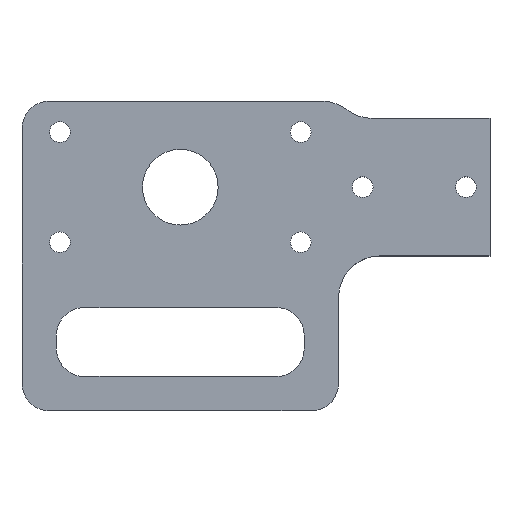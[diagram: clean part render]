
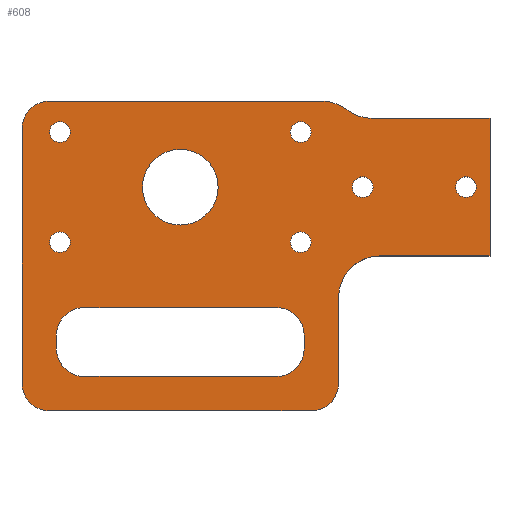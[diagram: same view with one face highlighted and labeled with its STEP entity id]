
A CAD part, top view. The second image highlights one B-rep face of the part: STEP entity #608.
In plain terms, the highlighted planar face has unit normal (0, 0, 1).
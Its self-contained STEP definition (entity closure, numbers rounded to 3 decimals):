
#23=FACE_BOUND('',#112,.T.);
#24=FACE_BOUND('',#113,.T.);
#25=FACE_BOUND('',#114,.T.);
#26=FACE_BOUND('',#115,.T.);
#27=FACE_BOUND('',#116,.T.);
#28=FACE_BOUND('',#117,.T.);
#29=FACE_BOUND('',#118,.T.);
#30=FACE_BOUND('',#119,.T.);
#43=PLANE('',#686);
#73=FACE_OUTER_BOUND('',#111,.T.);
#111=EDGE_LOOP('',(#534,#535,#536,#537,#538,#539,#540,#541,#542,#543,#544,
#545,#546));
#112=EDGE_LOOP('',(#547));
#113=EDGE_LOOP('',(#548,#549,#550,#551,#552,#553,#554,#555));
#114=EDGE_LOOP('',(#556));
#115=EDGE_LOOP('',(#557));
#116=EDGE_LOOP('',(#558));
#117=EDGE_LOOP('',(#559));
#118=EDGE_LOOP('',(#560));
#119=EDGE_LOOP('',(#561));
#124=LINE('',#882,#174);
#138=LINE('',#944,#188);
#141=LINE('',#952,#191);
#144=LINE('',#960,#194);
#146=LINE('',#966,#196);
#149=LINE('',#975,#199);
#157=LINE('',#998,#207);
#165=LINE('',#1028,#215);
#166=LINE('',#1031,#216);
#168=LINE('',#1034,#218);
#169=LINE('',#1036,#219);
#174=VECTOR('',#701,10.);
#188=VECTOR('',#755,10.);
#191=VECTOR('',#764,10.);
#194=VECTOR('',#773,10.);
#196=VECTOR('',#781,10.);
#199=VECTOR('',#790,10.);
#207=VECTOR('',#816,10.);
#215=VECTOR('',#854,10.);
#216=VECTOR('',#857,10.);
#218=VECTOR('',#861,10.);
#219=VECTOR('',#864,10.);
#220=CIRCLE('',#624,6.);
#238=CIRCLE('',#645,4.);
#239=CIRCLE('',#648,4.);
#240=CIRCLE('',#651,4.);
#241=CIRCLE('',#654,4.);
#242=CIRCLE('',#657,4.);
#243=CIRCLE('',#660,4.);
#244=CIRCLE('',#662,4.);
#245=CIRCLE('',#664,6.);
#246=CIRCLE('',#666,6.);
#247=CIRCLE('',#669,1.5);
#248=CIRCLE('',#671,1.5);
#249=CIRCLE('',#673,1.5);
#250=CIRCLE('',#675,1.5);
#251=CIRCLE('',#677,1.5);
#252=CIRCLE('',#679,5.5);
#253=CIRCLE('',#681,1.5);
#254=VERTEX_POINT('',#869);
#255=VERTEX_POINT('',#870);
#259=VERTEX_POINT('',#880);
#285=VERTEX_POINT('',#936);
#286=VERTEX_POINT('',#938);
#287=VERTEX_POINT('',#942);
#288=VERTEX_POINT('',#946);
#289=VERTEX_POINT('',#950);
#290=VERTEX_POINT('',#954);
#291=VERTEX_POINT('',#958);
#292=VERTEX_POINT('',#962);
#293=VERTEX_POINT('',#968);
#294=VERTEX_POINT('',#969);
#295=VERTEX_POINT('',#974);
#296=VERTEX_POINT('',#978);
#297=VERTEX_POINT('',#982);
#298=VERTEX_POINT('',#986);
#299=VERTEX_POINT('',#990);
#300=VERTEX_POINT('',#992);
#301=VERTEX_POINT('',#996);
#302=VERTEX_POINT('',#1000);
#303=VERTEX_POINT('',#1004);
#304=VERTEX_POINT('',#1008);
#305=VERTEX_POINT('',#1012);
#306=VERTEX_POINT('',#1016);
#307=VERTEX_POINT('',#1020);
#308=VERTEX_POINT('',#1024);
#309=VERTEX_POINT('',#1030);
#310=EDGE_CURVE('',#254,#255,#220,.T.);
#316=EDGE_CURVE('',#254,#259,#124,.T.);
#344=EDGE_CURVE('',#285,#286,#238,.T.);
#347=EDGE_CURVE('',#285,#287,#138,.T.);
#349=EDGE_CURVE('',#288,#287,#239,.T.);
#351=EDGE_CURVE('',#288,#289,#141,.T.);
#353=EDGE_CURVE('',#290,#289,#240,.T.);
#355=EDGE_CURVE('',#290,#291,#144,.T.);
#357=EDGE_CURVE('',#292,#291,#241,.T.);
#358=EDGE_CURVE('',#292,#286,#146,.T.);
#359=EDGE_CURVE('',#293,#294,#242,.T.);
#362=EDGE_CURVE('',#295,#294,#149,.T.);
#364=EDGE_CURVE('',#295,#296,#243,.T.);
#366=EDGE_CURVE('',#297,#259,#244,.T.);
#368=EDGE_CURVE('',#255,#298,#245,.T.);
#371=EDGE_CURVE('',#299,#300,#246,.T.);
#374=EDGE_CURVE('',#299,#301,#157,.T.);
#375=EDGE_CURVE('',#302,#302,#247,.T.);
#377=EDGE_CURVE('',#303,#303,#248,.T.);
#379=EDGE_CURVE('',#304,#304,#249,.T.);
#381=EDGE_CURVE('',#305,#305,#250,.T.);
#383=EDGE_CURVE('',#306,#306,#251,.T.);
#385=EDGE_CURVE('',#307,#307,#252,.T.);
#387=EDGE_CURVE('',#308,#308,#253,.T.);
#389=EDGE_CURVE('',#297,#296,#165,.T.);
#390=EDGE_CURVE('',#309,#298,#166,.T.);
#392=EDGE_CURVE('',#301,#309,#168,.T.);
#393=EDGE_CURVE('',#293,#300,#169,.T.);
#534=ORIENTED_EDGE('',*,*,#310,.F.);
#535=ORIENTED_EDGE('',*,*,#316,.T.);
#536=ORIENTED_EDGE('',*,*,#366,.F.);
#537=ORIENTED_EDGE('',*,*,#389,.T.);
#538=ORIENTED_EDGE('',*,*,#364,.F.);
#539=ORIENTED_EDGE('',*,*,#362,.T.);
#540=ORIENTED_EDGE('',*,*,#359,.F.);
#541=ORIENTED_EDGE('',*,*,#393,.T.);
#542=ORIENTED_EDGE('',*,*,#371,.F.);
#543=ORIENTED_EDGE('',*,*,#374,.T.);
#544=ORIENTED_EDGE('',*,*,#392,.T.);
#545=ORIENTED_EDGE('',*,*,#390,.T.);
#546=ORIENTED_EDGE('',*,*,#368,.F.);
#547=ORIENTED_EDGE('',*,*,#387,.T.);
#548=ORIENTED_EDGE('',*,*,#351,.T.);
#549=ORIENTED_EDGE('',*,*,#353,.F.);
#550=ORIENTED_EDGE('',*,*,#355,.T.);
#551=ORIENTED_EDGE('',*,*,#357,.F.);
#552=ORIENTED_EDGE('',*,*,#358,.T.);
#553=ORIENTED_EDGE('',*,*,#344,.F.);
#554=ORIENTED_EDGE('',*,*,#347,.T.);
#555=ORIENTED_EDGE('',*,*,#349,.F.);
#556=ORIENTED_EDGE('',*,*,#385,.T.);
#557=ORIENTED_EDGE('',*,*,#383,.T.);
#558=ORIENTED_EDGE('',*,*,#381,.T.);
#559=ORIENTED_EDGE('',*,*,#379,.T.);
#560=ORIENTED_EDGE('',*,*,#377,.T.);
#561=ORIENTED_EDGE('',*,*,#375,.T.);
#608=ADVANCED_FACE('',(#73,#23,#24,#25,#26,#27,#28,#29,#30),#43,.T.);
#624=AXIS2_PLACEMENT_3D('',#871,#691,#692);
#645=AXIS2_PLACEMENT_3D('',#939,#749,#750);
#648=AXIS2_PLACEMENT_3D('',#948,#759,#760);
#651=AXIS2_PLACEMENT_3D('',#956,#768,#769);
#654=AXIS2_PLACEMENT_3D('',#964,#777,#778);
#657=AXIS2_PLACEMENT_3D('',#970,#784,#785);
#660=AXIS2_PLACEMENT_3D('',#979,#794,#795);
#662=AXIS2_PLACEMENT_3D('',#983,#799,#800);
#664=AXIS2_PLACEMENT_3D('',#987,#804,#805);
#666=AXIS2_PLACEMENT_3D('',#993,#810,#811);
#669=AXIS2_PLACEMENT_3D('',#1001,#819,#820);
#671=AXIS2_PLACEMENT_3D('',#1005,#824,#825);
#673=AXIS2_PLACEMENT_3D('',#1009,#829,#830);
#675=AXIS2_PLACEMENT_3D('',#1013,#834,#835);
#677=AXIS2_PLACEMENT_3D('',#1017,#839,#840);
#679=AXIS2_PLACEMENT_3D('',#1021,#844,#845);
#681=AXIS2_PLACEMENT_3D('',#1025,#849,#850);
#686=AXIS2_PLACEMENT_3D('',#1037,#865,#866);
#691=DIRECTION('center_axis',(0.,0.,-1.));
#692=DIRECTION('ref_axis',(0.323,0.946,0.));
#701=DIRECTION('',(-1.,0.,0.));
#749=DIRECTION('center_axis',(0.,0.,1.));
#750=DIRECTION('ref_axis',(-0.707,0.707,0.));
#755=DIRECTION('',(1.,0.,0.));
#759=DIRECTION('center_axis',(0.,0.,1.));
#760=DIRECTION('ref_axis',(0.707,0.707,0.));
#764=DIRECTION('',(0.,-1.,0.));
#768=DIRECTION('center_axis',(0.,0.,1.));
#769=DIRECTION('ref_axis',(0.707,-0.707,0.));
#773=DIRECTION('',(-1.,0.,0.));
#777=DIRECTION('center_axis',(0.,0.,1.));
#778=DIRECTION('ref_axis',(-0.707,-0.707,0.));
#781=DIRECTION('',(0.,1.,0.));
#784=DIRECTION('center_axis',(0.,0.,-1.));
#785=DIRECTION('ref_axis',(0.707,-0.707,0.));
#790=DIRECTION('',(1.,0.,0.));
#794=DIRECTION('center_axis',(0.,0.,-1.));
#795=DIRECTION('ref_axis',(-0.707,-0.707,0.));
#799=DIRECTION('center_axis',(0.,0.,-1.));
#800=DIRECTION('ref_axis',(-0.707,0.707,0.));
#804=DIRECTION('center_axis',(0.,0.,1.));
#805=DIRECTION('ref_axis',(-0.812,-0.583,0.));
#810=DIRECTION('center_axis',(0.,0.,1.));
#811=DIRECTION('ref_axis',(-0.707,0.707,0.));
#816=DIRECTION('',(1.,0.,0.));
#819=DIRECTION('center_axis',(0.,0.,-1.));
#820=DIRECTION('ref_axis',(1.,0.,0.));
#824=DIRECTION('center_axis',(0.,0.,-1.));
#825=DIRECTION('ref_axis',(1.,0.,0.));
#829=DIRECTION('center_axis',(0.,0.,-1.));
#830=DIRECTION('ref_axis',(1.,0.,0.));
#834=DIRECTION('center_axis',(0.,0.,-1.));
#835=DIRECTION('ref_axis',(1.,0.,0.));
#839=DIRECTION('center_axis',(0.,0.,-1.));
#840=DIRECTION('ref_axis',(1.,0.,0.));
#844=DIRECTION('center_axis',(0.,0.,-1.));
#845=DIRECTION('ref_axis',(1.,0.,0.));
#849=DIRECTION('center_axis',(0.,0.,-1.));
#850=DIRECTION('ref_axis',(1.,0.,0.));
#854=DIRECTION('',(0.,-1.,0.));
#857=DIRECTION('',(-1.,0.,0.));
#861=DIRECTION('',(0.,1.,0.));
#864=DIRECTION('',(0.,1.,0.));
#865=DIRECTION('center_axis',(0.,0.,1.));
#866=DIRECTION('ref_axis',(1.,0.,0.));
#869=CARTESIAN_POINT('',(-1.958,12.5,3.));
#870=CARTESIAN_POINT('',(1.708,11.25,3.));
#871=CARTESIAN_POINT('Origin',(-1.958,6.5,3.));
#880=CARTESIAN_POINT('',(-41.5,12.5,3.));
#882=CARTESIAN_POINT('',(0.5,12.5,3.));
#936=CARTESIAN_POINT('',(-36.5,-17.5,3.));
#938=CARTESIAN_POINT('',(-40.5,-21.5,3.));
#939=CARTESIAN_POINT('Origin',(-36.5,-21.5,3.));
#942=CARTESIAN_POINT('',(-8.5,-17.5,3.));
#944=CARTESIAN_POINT('',(-4.5,-17.5,3.));
#946=CARTESIAN_POINT('',(-4.5,-21.5,3.));
#948=CARTESIAN_POINT('Origin',(-8.5,-21.5,3.));
#950=CARTESIAN_POINT('',(-4.5,-23.5,3.));
#952=CARTESIAN_POINT('',(-4.5,-27.5,3.));
#954=CARTESIAN_POINT('',(-8.5,-27.5,3.));
#956=CARTESIAN_POINT('Origin',(-8.5,-23.5,3.));
#958=CARTESIAN_POINT('',(-36.5,-27.5,3.));
#960=CARTESIAN_POINT('',(-40.5,-27.5,3.));
#962=CARTESIAN_POINT('',(-40.5,-23.5,3.));
#964=CARTESIAN_POINT('Origin',(-36.5,-23.5,3.));
#966=CARTESIAN_POINT('',(-40.5,-17.5,3.));
#968=CARTESIAN_POINT('',(0.5,-28.5,3.));
#969=CARTESIAN_POINT('',(-3.5,-32.5,3.));
#970=CARTESIAN_POINT('Origin',(-3.5,-28.5,3.));
#974=CARTESIAN_POINT('',(-41.5,-32.5,3.));
#975=CARTESIAN_POINT('',(-45.5,-32.5,3.));
#978=CARTESIAN_POINT('',(-45.5,-28.5,3.));
#979=CARTESIAN_POINT('Origin',(-41.5,-28.5,3.));
#982=CARTESIAN_POINT('',(-45.5,8.5,3.));
#983=CARTESIAN_POINT('Origin',(-41.5,8.5,3.));
#986=CARTESIAN_POINT('',(5.373,10.,3.));
#987=CARTESIAN_POINT('Origin',(5.373,16.,3.));
#990=CARTESIAN_POINT('',(6.5,-10.,3.));
#992=CARTESIAN_POINT('',(0.5,-16.,3.));
#993=CARTESIAN_POINT('Origin',(6.5,-16.,3.));
#996=CARTESIAN_POINT('',(22.5,-10.,3.));
#998=CARTESIAN_POINT('',(-22.5,-10.,3.));
#1000=CARTESIAN_POINT('',(17.5,0.,3.));
#1001=CARTESIAN_POINT('Origin',(19.,0.,3.));
#1004=CARTESIAN_POINT('',(2.5,0.,3.));
#1005=CARTESIAN_POINT('Origin',(4.,0.,
3.));
#1008=CARTESIAN_POINT('',(-41.5,8.,3.));
#1009=CARTESIAN_POINT('Origin',(-40.,8.,3.));
#1012=CARTESIAN_POINT('',(-6.5,-8.,3.));
#1013=CARTESIAN_POINT('Origin',(-5.,-8.,3.));
#1016=CARTESIAN_POINT('',(-41.5,-8.,3.));
#1017=CARTESIAN_POINT('Origin',(-40.,-8.,3.));
#1020=CARTESIAN_POINT('',(-28.,0.,3.));
#1021=CARTESIAN_POINT('Origin',(-22.5,0.,3.));
#1024=CARTESIAN_POINT('',(-6.5,8.,3.));
#1025=CARTESIAN_POINT('Origin',(-5.,8.,3.));
#1028=CARTESIAN_POINT('',(-45.5,12.5,3.));
#1030=CARTESIAN_POINT('',(22.5,10.,3.));
#1031=CARTESIAN_POINT('',(22.5,10.,3.));
#1034=CARTESIAN_POINT('',(22.5,-10.,3.));
#1036=CARTESIAN_POINT('',(0.5,-32.5,3.));
#1037=CARTESIAN_POINT('Origin',(-11.5,-10.,3.));
